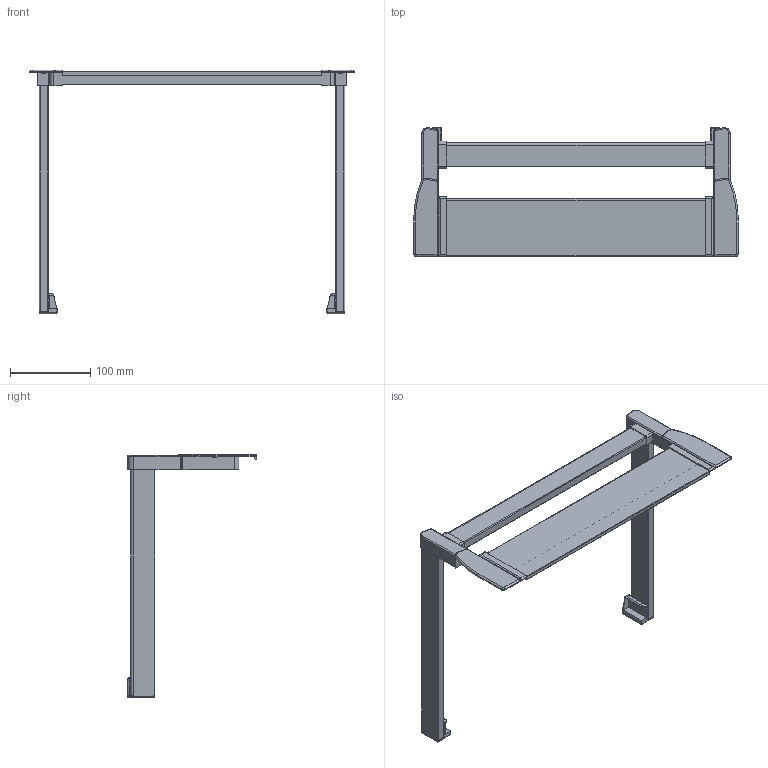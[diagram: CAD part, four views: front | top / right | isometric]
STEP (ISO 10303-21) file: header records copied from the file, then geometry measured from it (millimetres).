
FILE_DESCRIPTION (( 'STEP AP214' ), '1' );
FILE_NAME ('1_P620_NL 300_KAB 450_19er KS_.step', '2009-09-16T06:29:15', ( 'Waldinger Reinhard' ), ( 'Grass GmbH' ), 'SwSTEP 2.0', 'SolidWorks 2009', '' );
FILE_SCHEMA (( 'AUTOMOTIVE_DESIGN' ));
Length unit declared in the file: millimetre
Products named in the file (1): 1_P620_NL 300_KAB 450_19er KS_
Bounding box: 403.6 x 160.5 x 302.8 mm (x, y, z)
Volume: 676754.1 mm3; surface area: 162918.4 mm2
Topology: 1 solids, 1 shells, 220 faces, 578 edges, 364 vertices
Faces by surface type: plane 97, cylinder 91, torus 28, sphere 2, bspline 2
Entity records: 7004 total; most frequent: CARTESIAN_POINT 1345, DIRECTION 1198, ORIENTED_EDGE 1152, EDGE_CURVE 576, AXIS2_PLACEMENT_3D 433, VERTEX_POINT 364, VECTOR 332, LINE 332
